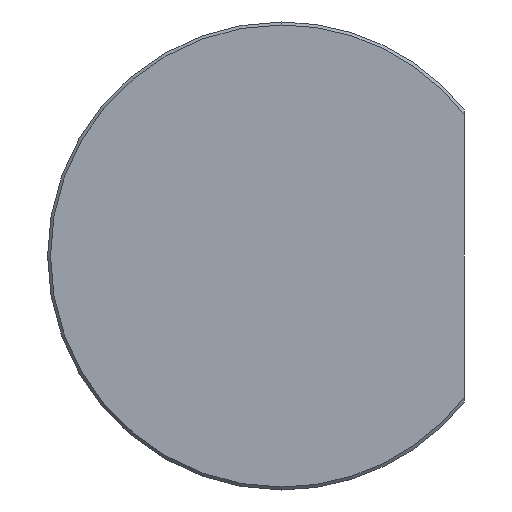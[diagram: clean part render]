
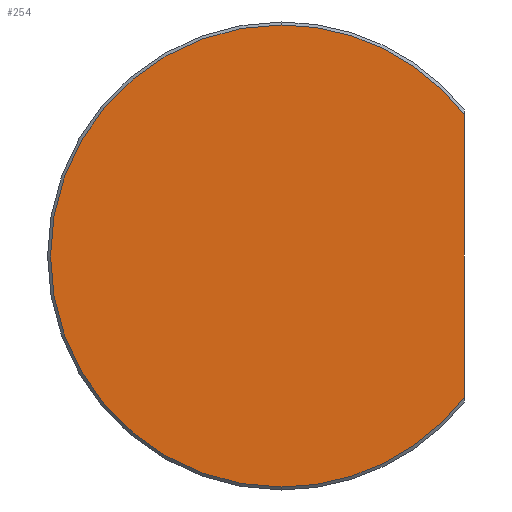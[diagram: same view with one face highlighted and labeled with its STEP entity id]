
A CAD part, front view. The second image highlights one B-rep face of the part: STEP entity #254.
In plain terms, the highlighted planar face has unit normal (0, -1, 0).
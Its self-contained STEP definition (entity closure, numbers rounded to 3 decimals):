
#2 = EDGE_CURVE ( 'NONE', #466, #292, #290, .T. ) ;
#12 = AXIS2_PLACEMENT_3D ( 'NONE', #462, #554, #85 ) ;
#22 = AXIS2_PLACEMENT_3D ( 'NONE', #565, #385, #563 ) ;
#23 = CIRCLE ( 'NONE', #369, 15.8 ) ;
#41 = DIRECTION ( 'NONE',  ( 0., 0., 1. ) ) ;
#46 = VERTEX_POINT ( 'NONE', #386 ) ;
#52 = CARTESIAN_POINT ( 'NONE',  ( 0., 0., 15.8 ) ) ;
#57 = CIRCLE ( 'NONE', #598, 15.8 ) ;
#69 = VERTEX_POINT ( 'NONE', #52 ) ;
#71 = CARTESIAN_POINT ( 'NONE',  ( 0., 0., 0. ) ) ;
#85 = DIRECTION ( 'NONE',  ( 0., 0., -1. ) ) ;
#112 = DIRECTION ( 'NONE',  ( 0., -1., 0. ) ) ;
#132 = LINE ( 'NONE', #175, #525 ) ;
#138 = ORIENTED_EDGE ( 'NONE', *, *, #265, .T. ) ;
#157 = CARTESIAN_POINT ( 'NONE',  ( 0., 0., 0. ) ) ;
#175 = CARTESIAN_POINT ( 'NONE',  ( 12.5, 0., -9.987 ) ) ;
#183 = ORIENTED_EDGE ( 'NONE', *, *, #517, .T. ) ;
#229 = CARTESIAN_POINT ( 'NONE',  ( 12.5, 0., -9.664 ) ) ;
#254 = ADVANCED_FACE ( 'NONE', ( #459 ), #551, .T. ) ;
#265 = EDGE_CURVE ( 'NONE', #292, #46, #132, .T. ) ;
#268 = DIRECTION ( 'NONE',  ( 0., -1., 0. ) ) ;
#290 = CIRCLE ( 'NONE', #22, 15.8 ) ;
#292 = VERTEX_POINT ( 'NONE', #229 ) ;
#309 = ORIENTED_EDGE ( 'NONE', *, *, #2, .T. ) ;
#364 = ORIENTED_EDGE ( 'NONE', *, *, #457, .T. ) ;
#369 = AXIS2_PLACEMENT_3D ( 'NONE', #71, #268, #448 ) ;
#385 = DIRECTION ( 'NONE',  ( 0., -1., 0. ) ) ;
#386 = CARTESIAN_POINT ( 'NONE',  ( 12.5, 0., 9.664 ) ) ;
#389 = CARTESIAN_POINT ( 'NONE',  ( 0., 0., -15.8 ) ) ;
#390 = DIRECTION ( 'NONE',  ( 0., 0., -1. ) ) ;
#448 = DIRECTION ( 'NONE',  ( 0., 0., -1. ) ) ;
#457 = EDGE_CURVE ( 'NONE', #46, #69, #57, .T. ) ;
#459 = FACE_OUTER_BOUND ( 'NONE', #486, .T. ) ;
#462 = CARTESIAN_POINT ( 'NONE',  ( 0., 0., 0. ) ) ;
#466 = VERTEX_POINT ( 'NONE', #389 ) ;
#486 = EDGE_LOOP ( 'NONE', ( #364, #183, #309, #138 ) ) ;
#517 = EDGE_CURVE ( 'NONE', #69, #466, #23, .T. ) ;
#525 = VECTOR ( 'NONE', #41, 1000. ) ;
#551 = PLANE ( 'NONE',  #12 ) ;
#554 = DIRECTION ( 'NONE',  ( 0., -1., 0. ) ) ;
#563 = DIRECTION ( 'NONE',  ( 0., 0., -1. ) ) ;
#565 = CARTESIAN_POINT ( 'NONE',  ( 0., 0., 0. ) ) ;
#598 = AXIS2_PLACEMENT_3D ( 'NONE', #157, #112, #390 ) ;
